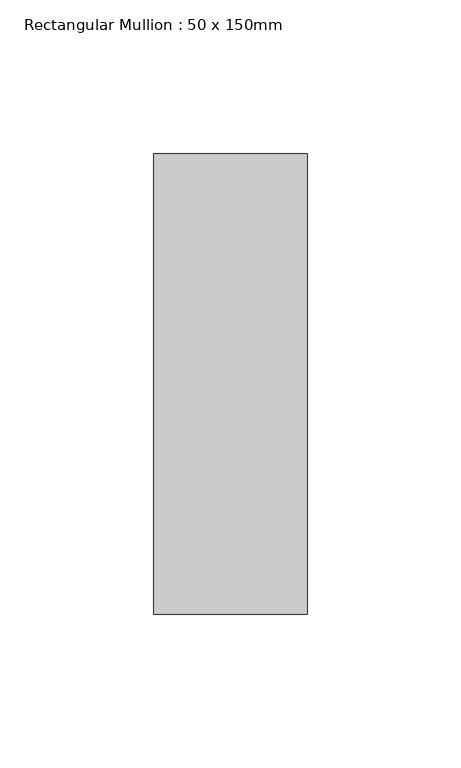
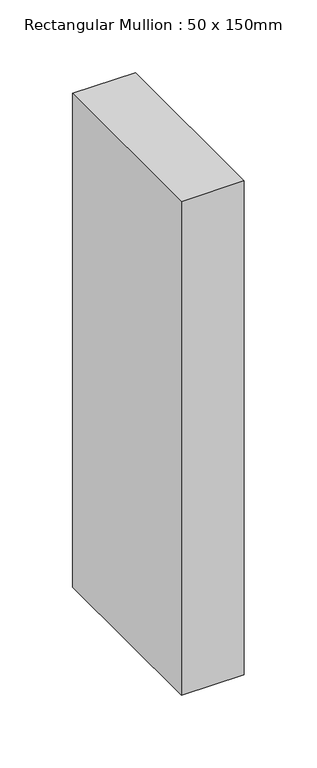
"""IFC4 building model written with IfcOpenShell, lengths in millimetres: member geometry, Rectangular Mullion : 50 x 150mm."""

from ifc_helpers import new_model, si_unit, frame, origin, place, context, project, spatial, polyline, outline, extrude, source, transform, mapped, element, save


def rectangular_mullion_50_x_150mm_dcb81aa5(model_context):
    return source(origin(), model_context, "Body", "SweptSolid", [
        extrude(outline(polyline([(0.0, 75.0), (0.0, -75.0), (-50.0, -75.0), (-50.0, 75.0), (0.0, 75.0)])), frame((0.0, 0.0, -414.9664157), z_axis=(0.0, 0.0, 1.0), x_axis=(1.0, 0.0, 0.0)), (0.0, 0.0, 1.0), 414.9664157),
    ])


if __name__ == "__main__":
    model = new_model("IFC4")
    model_context = context("Model", 3, world=origin())
    ifc_project = project(units=[si_unit("LENGTHUNIT", "METRE", prefix="MILLI")], contexts=[model_context])
    site = spatial("IfcSite", under=ifc_project)
    building = spatial("IfcBuilding", under=site)
    placement = place(None, origin())
    rectangular_mullion_50_x_150mm_shape = rectangular_mullion_50_x_150mm_dcb81aa5(model_context)
    element("IfcMember", 1, ObjectType="Rectangular Mullion : 50 x 150mm", at=placement, inside=building, context=model_context, shape_type="MappedRepresentation", body=[
        mapped(rectangular_mullion_50_x_150mm_shape, transform((0.0, 0.0, 0.0), x_axis=(1.0, 0.0, 0.0), y_axis=(0.0, 1.0, 0.0), z_axis=(0.0, 0.0, 1.0))),
    ])
    save(model, "model.ifc")
